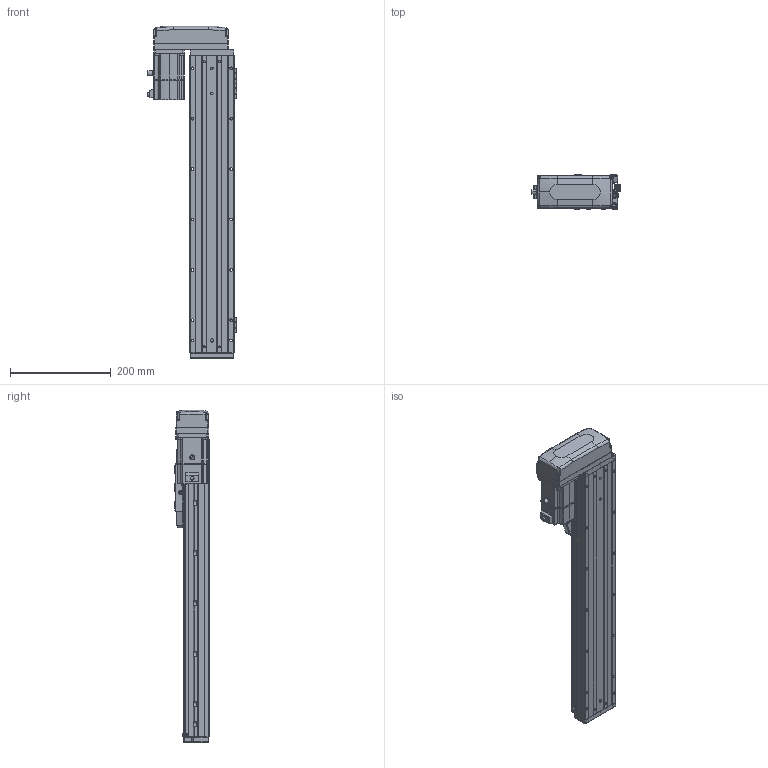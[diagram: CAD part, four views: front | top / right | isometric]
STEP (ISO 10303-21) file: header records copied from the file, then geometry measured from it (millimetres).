
FILE_DESCRIPTION (( 'STEP AP203' ), '1' );
FILE_NAME ('CTHA86-400-BR-M20-C4L.step', '2022-04-26T00:59:49', ( '微软用户' ), ( '微软中国' ), 'SwSTEP 2.0', 'SolidWorks 2020', '' );
FILE_SCHEMA (( 'CONFIG_CONTROL_DESIGN' ));
Length unit declared in the file: millimetre
Products named in the file (21): GBT77-2000 M3×3; CTHA86-002; KTHA86-004; GBT 70.1-M3×20; CTHA86-031; KTHA86-005; GBT70.1 M5℅16; CTHA86-030; GB¨uT 70.2-M3¡Á5_M3¡Á6; GBT 70.1-M3×16; GBT 70.3-M3℅6; EE_SX911P_R; GBT 70.1-M3℅6; CTHA86-015-1_CTHA86-015-2; CTHA60-017; CTHA60-016; CTHA86-033; CTHA60-021; _X2_4E0983F1_X0_200W_1; CTHA86-400-BR-M20-C4L; KTHA86-001_590
Assembly tree (66 placements, depth 2):
  CTHA86-400-BR-M20-C4L
    KTHA86-001_590
    KTHA86-004
    KTHA86-005
    GB¨uT 70.2-M3¡Á5_M3¡Á6  x10
    EE_SX911P_R  x3
    CTHA60-017  x3
    CTHA60-021  x2
    GBT77-2000 M3×3  x6
    GBT 70.1-M3×20
    GBT70.1 M5℅16  x14
    GBT 70.1-M3×16  x5
    GBT 70.1-M3℅6  x6
    CTHA60-016  x2
    _X2_4E0983F1_X0_200W_1
    CTHA86-002
    CTHA86-031
    CTHA86-030  x2
    GBT 70.3-M3℅6  x4
    CTHA86-015-1_CTHA86-015-2
    CTHA86-033
Bounding box: 178.52 x 68 x 659 mm (x, y, z)
Volume: 2814457.5 mm3; surface area: 497298 mm2
Topology: 68 solids, 68 shells, 2746 faces, 6540 edges, 4024 vertices
Faces by surface type: plane 1439, cylinder 711, cone 365, torus 132, bspline 75, sphere 24
Entity records: 47789 total; most frequent: CARTESIAN_POINT 9283, DIRECTION 7409, ORIENTED_EDGE 7180, EDGE_CURVE 3590, AXIS2_PLACEMENT_3D 2534, LINE 2341, VECTOR 2341, VERTEX_POINT 2256
